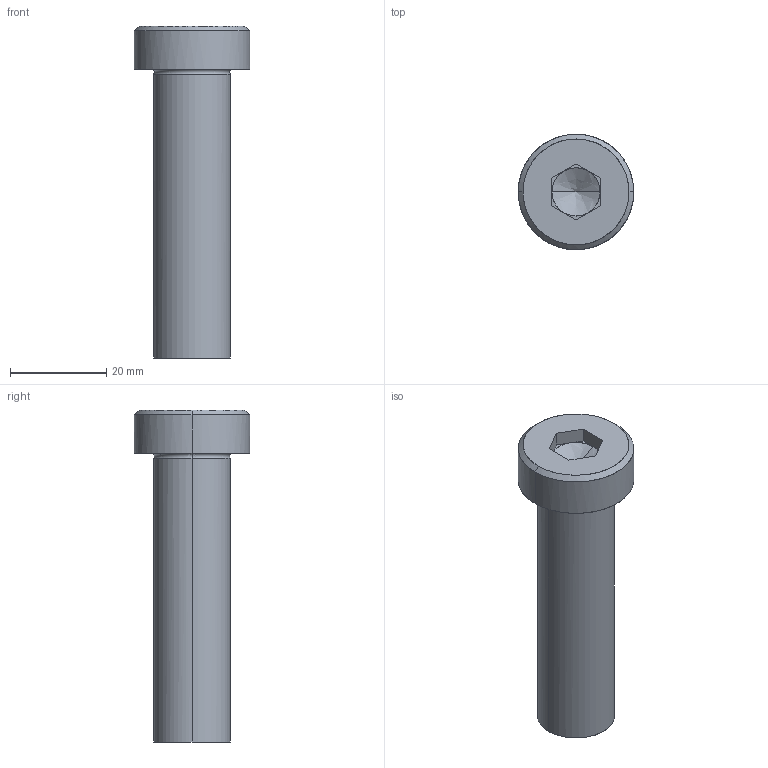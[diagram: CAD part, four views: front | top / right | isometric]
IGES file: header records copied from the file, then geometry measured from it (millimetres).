
Global section: file name: E:\UnigraphicsGraphicData\MISUMI_PRESS-PARTS\IGES\3d_sbtcn16-60_05145_r00.igs; native system: NX V5.0; preprocessor: UGS NX IGES V5.0; author: MISUMI; date: 20110105.162457; units: millimetre
Bounding box: 24 x 24 x 69 mm (x, y, z)
Surface area: 5362.4 mm2 (no closed solid volume)
Topology: 0 solids, 0 shells, 34 faces, 186 edges, 182 vertices
Faces by surface type: bspline 34
